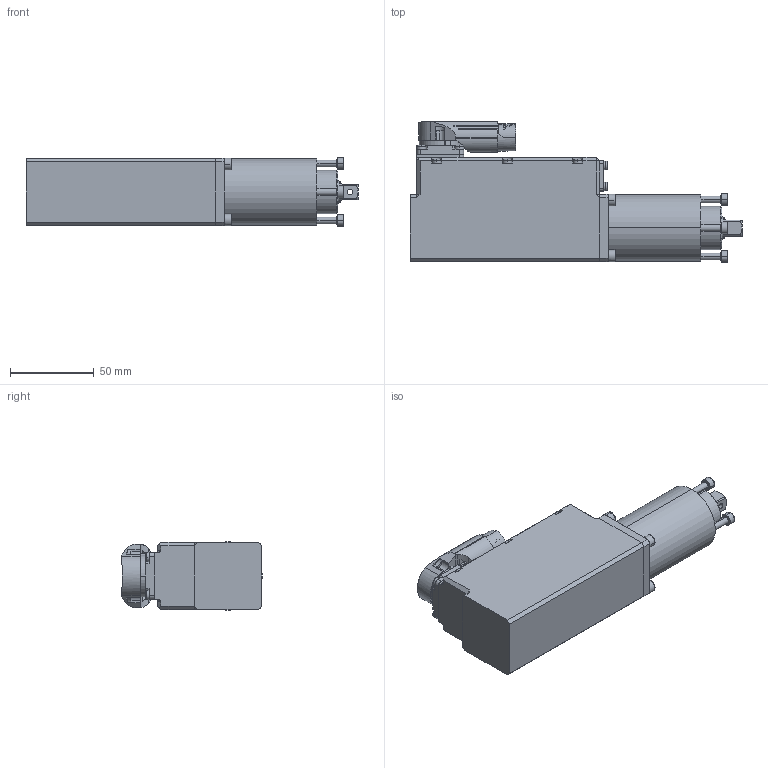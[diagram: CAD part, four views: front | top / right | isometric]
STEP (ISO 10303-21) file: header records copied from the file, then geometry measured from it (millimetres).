
FILE_DESCRIPTION (( 'STEP AP203' ), '1' );
FILE_NAME ('70121590_KSX1015ZV38.STEP', '2020-01-15T11:19:02', ( 'admin' ), ( '' ), 'SwSTEP 2.0', 'SolidWorks 2017', '' );
FILE_SCHEMA (( 'CONFIG_CONTROL_DESIGN' ));
Length unit declared in the file: millimetre
Products named in the file (8): 70111000; 70111180_2; 70111180; 70111180_Pos_vorne; 70111000_KSX1_Stecker_vorne; 70111010; 70111020; 70121590_KSX1015ZV38
Assembly tree (7 placements, depth 4):
  70121590_KSX1015ZV38
    70111000_KSX1_Stecker_vorne
      70111000
      70111180_Pos_vorne
        70111180_2
        70111180
    70111010
    70111020
Bounding box: 197.8 x 83.9 x 41 mm (x, y, z)
Volume: 384598.6 mm3; surface area: 66297.9 mm2
Topology: 5 solids, 7 shells, 1464 faces, 3688 edges, 2319 vertices
Faces by surface type: cylinder 622, plane 415, cone 233, torus 103, sphere 48, bspline 43
Entity records: 48183 total; most frequent: CARTESIAN_POINT 13048, ORIENTED_EDGE 7252, DIRECTION 7127, EDGE_CURVE 3626, AXIS2_PLACEMENT_3D 2885, VERTEX_POINT 2319, EDGE_LOOP 1621, ADVANCED_FACE 1464
